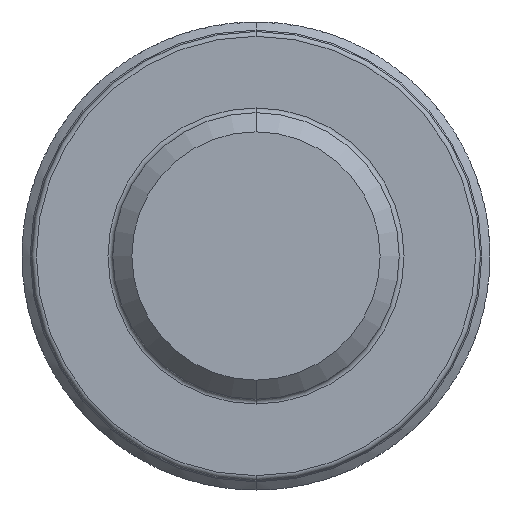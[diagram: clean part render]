
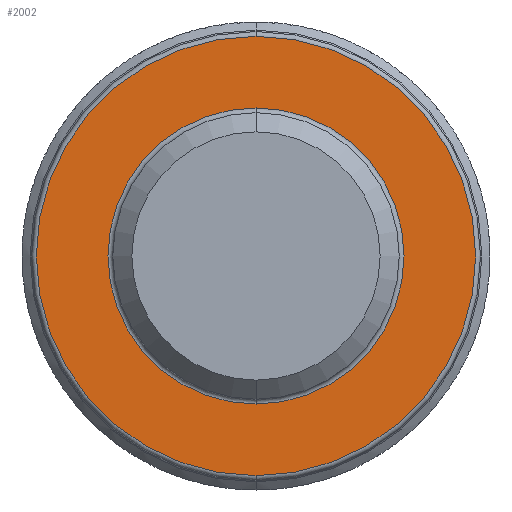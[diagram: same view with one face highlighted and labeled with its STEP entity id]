
A CAD part, front view. The second image highlights one B-rep face of the part: STEP entity #2002.
In plain terms, the highlighted planar face has unit normal (0, -1, 0).
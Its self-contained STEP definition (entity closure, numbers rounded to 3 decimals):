
#124 = DIRECTION ( 'NONE',  ( 0., -1., 0. ) ) ;
#134 = AXIS2_PLACEMENT_3D ( 'NONE', #880, #3525, #3482 ) ;
#211 = DIRECTION ( 'NONE',  ( 0., 1., 0. ) ) ;
#880 = CARTESIAN_POINT ( 'NONE',  ( 3., -6., 0. ) ) ;
#1579 = CARTESIAN_POINT ( 'NONE',  ( 0., -6., 0. ) ) ;
#2002 = ADVANCED_FACE ( 'NONE', ( #2995, #5647 ), #2315, .T. ) ;
#2159 = VERTEX_POINT ( 'NONE', #6706 ) ;
#2292 = AXIS2_PLACEMENT_3D ( 'NONE', #5067, #211, #2965 ) ;
#2315 = PLANE ( 'NONE',  #134 ) ;
#2445 = DIRECTION ( 'NONE',  ( 0., 0., -1. ) ) ;
#2529 = DIRECTION ( 'NONE',  ( 0., 1., 0. ) ) ;
#2908 = EDGE_LOOP ( 'NONE', ( #5512, #5934 ) ) ;
#2953 = ORIENTED_EDGE ( 'NONE', *, *, #4663, .T. ) ;
#2965 = DIRECTION ( 'NONE',  ( 0., 0., -1. ) ) ;
#2995 = FACE_BOUND ( 'NONE', #2908, .T. ) ;
#3099 = AXIS2_PLACEMENT_3D ( 'NONE', #5386, #6685, #5929 ) ;
#3287 = CIRCLE ( 'NONE', #2292, 3.1 ) ;
#3307 = CARTESIAN_POINT ( 'NONE',  ( 0., -6., -4.6 ) ) ;
#3482 = DIRECTION ( 'NONE',  ( 0., 0., -1. ) ) ;
#3525 = DIRECTION ( 'NONE',  ( 0., -1., 0. ) ) ;
#3763 = EDGE_CURVE ( 'NONE', #7871, #6141, #8006, .T. ) ;
#3777 = AXIS2_PLACEMENT_3D ( 'NONE', #6042, #2529, #2445 ) ;
#3801 = EDGE_CURVE ( 'NONE', #2159, #4540, #3287, .T. ) ;
#4437 = EDGE_LOOP ( 'NONE', ( #2953, #8404 ) ) ;
#4540 = VERTEX_POINT ( 'NONE', #7977 ) ;
#4663 = EDGE_CURVE ( 'NONE', #6141, #7871, #8667, .T. ) ;
#4940 = CIRCLE ( 'NONE', #3777, 3.1 ) ;
#5067 = CARTESIAN_POINT ( 'NONE',  ( 0., -6., 0. ) ) ;
#5386 = CARTESIAN_POINT ( 'NONE',  ( 0., -6., 0. ) ) ;
#5438 = AXIS2_PLACEMENT_3D ( 'NONE', #1579, #124, #8459 ) ;
#5512 = ORIENTED_EDGE ( 'NONE', *, *, #5620, .T. ) ;
#5620 = EDGE_CURVE ( 'NONE', #4540, #2159, #4940, .T. ) ;
#5647 = FACE_OUTER_BOUND ( 'NONE', #4437, .T. ) ;
#5929 = DIRECTION ( 'NONE',  ( 0., 0., -1. ) ) ;
#5934 = ORIENTED_EDGE ( 'NONE', *, *, #3801, .T. ) ;
#6042 = CARTESIAN_POINT ( 'NONE',  ( 0., -6., 0. ) ) ;
#6141 = VERTEX_POINT ( 'NONE', #3307 ) ;
#6685 = DIRECTION ( 'NONE',  ( 0., -1., 0. ) ) ;
#6706 = CARTESIAN_POINT ( 'NONE',  ( 0., -6., 3.1 ) ) ;
#7871 = VERTEX_POINT ( 'NONE', #8783 ) ;
#7977 = CARTESIAN_POINT ( 'NONE',  ( 0., -6., -3.1 ) ) ;
#8006 = CIRCLE ( 'NONE', #5438, 4.6 ) ;
#8404 = ORIENTED_EDGE ( 'NONE', *, *, #3763, .T. ) ;
#8459 = DIRECTION ( 'NONE',  ( 0., 0., -1. ) ) ;
#8667 = CIRCLE ( 'NONE', #3099, 4.6 ) ;
#8783 = CARTESIAN_POINT ( 'NONE',  ( 0., -6., 4.6 ) ) ;
